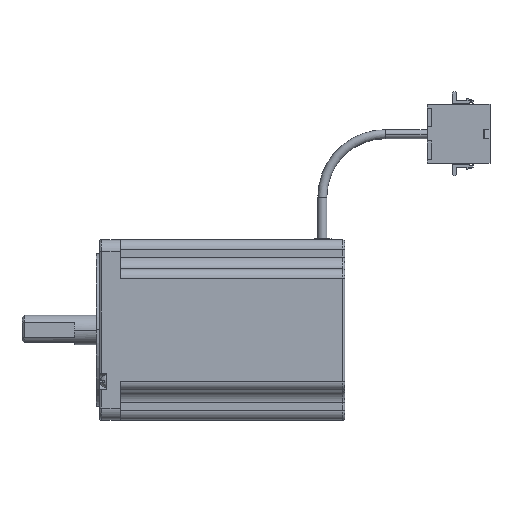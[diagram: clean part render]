
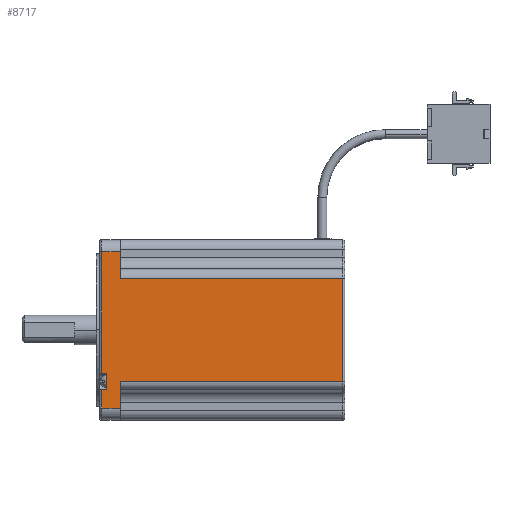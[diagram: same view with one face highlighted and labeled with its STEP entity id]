
A CAD part, top view. The second image highlights one B-rep face of the part: STEP entity #8717.
In plain terms, the highlighted planar face has unit normal (0, 0, 1) as drawn and (-1, 0, 0) by its records, which use the part's own axes.
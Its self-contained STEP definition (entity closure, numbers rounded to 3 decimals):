
#89 = LINE ( 'NONE', #5819, #8015 ) ;
#282 = EDGE_CURVE ( 'NONE', #3821, #5480, #89, .T. ) ;
#329 = CARTESIAN_POINT ( 'NONE',  ( -119.958, 68.06, -116. ) ) ;
#341 = EDGE_CURVE ( 'NONE', #5930, #10087, #3624, .T. ) ;
#569 = ORIENTED_EDGE ( 'NONE', *, *, #1778, .T. ) ;
#1148 = ORIENTED_EDGE ( 'NONE', *, *, #282, .T. ) ;
#1176 = EDGE_CURVE ( 'NONE', #10087, #5801, #5386, .T. ) ;
#1214 = VERTEX_POINT ( 'NONE', #9727 ) ;
#1280 = VECTOR ( 'NONE', #4885, 1000. ) ;
#1308 = EDGE_CURVE ( 'NONE', #5801, #4598, #2290, .T. ) ;
#1394 = DIRECTION ( 'NONE',  ( -1., 0., 0. ) ) ;
#1445 = LINE ( 'NONE', #4152, #3076 ) ;
#1448 = LINE ( 'NONE', #3697, #5412 ) ;
#1657 = DIRECTION ( 'NONE',  ( 0., -1., 0. ) ) ;
#1715 = EDGE_CURVE ( 'NONE', #4598, #6285, #8066, .T. ) ;
#1778 = EDGE_CURVE ( 'NONE', #6285, #1865, #5492, .T. ) ;
#1789 = VECTOR ( 'NONE', #5985, 1000. ) ;
#1865 = VERTEX_POINT ( 'NONE', #3994 ) ;
#1873 = CARTESIAN_POINT ( 'NONE',  ( -119.958, 18.86, -116. ) ) ;
#1911 = EDGE_CURVE ( 'NONE', #1865, #5703, #4533, .T. ) ;
#2181 = DIRECTION ( 'NONE',  ( 0., 0., 1. ) ) ;
#2290 = LINE ( 'NONE', #4645, #4421 ) ;
#2306 = EDGE_CURVE ( 'NONE', #5703, #4131, #1445, .T. ) ;
#2321 = VECTOR ( 'NONE', #9241, 1000. ) ;
#2348 = CARTESIAN_POINT ( 'NONE',  ( -119.958, 6.16, -10. ) ) ;
#2380 = EDGE_CURVE ( 'NONE', #4131, #7276, #4445, .T. ) ;
#2595 = DIRECTION ( 'NONE',  ( 0., 1., 0. ) ) ;
#2658 = EDGE_CURVE ( 'NONE', #7276, #1214, #4315, .T. ) ;
#2870 = EDGE_LOOP ( 'NONE', ( #7535, #1148, #4387, #3046, #4974, #9459, #6623, #569, #5582, #3065, #4726, #6082 ) ) ;
#2994 = CARTESIAN_POINT ( 'NONE',  ( -119.958, 71.76, -1. ) ) ;
#3046 = ORIENTED_EDGE ( 'NONE', *, *, #341, .T. ) ;
#3065 = ORIENTED_EDGE ( 'NONE', *, *, #2306, .T. ) ;
#3076 = VECTOR ( 'NONE', #2595, 1000. ) ;
#3079 = FACE_OUTER_BOUND ( 'NONE', #2870, .T. ) ;
#3203 = DIRECTION ( 'NONE',  ( 0., 0., 1. ) ) ;
#3397 = CARTESIAN_POINT ( 'NONE',  ( -119.958, 71.76, 0. ) ) ;
#3624 = LINE ( 'NONE', #5782, #7531 ) ;
#3697 = CARTESIAN_POINT ( 'NONE',  ( -119.958, 18.86, 0. ) ) ;
#3821 = VERTEX_POINT ( 'NONE', #329 ) ;
#3994 = CARTESIAN_POINT ( 'NONE',  ( -119.958, 71.76, -3.5 ) ) ;
#4009 = VECTOR ( 'NONE', #2181, 1000. ) ;
#4131 = VERTEX_POINT ( 'NONE', #8304 ) ;
#4152 = CARTESIAN_POINT ( 'NONE',  ( -119.958, 0.46, -1. ) ) ;
#4288 = CARTESIAN_POINT ( 'NONE',  ( -119.958, 80.76, -10. ) ) ;
#4315 = LINE ( 'NONE', #4849, #8217 ) ;
#4387 = ORIENTED_EDGE ( 'NONE', *, *, #8644, .T. ) ;
#4421 = VECTOR ( 'NONE', #5537, 1000. ) ;
#4445 = LINE ( 'NONE', #9366, #2321 ) ;
#4533 = LINE ( 'NONE', #3397, #6332 ) ;
#4598 = VERTEX_POINT ( 'NONE', #8842 ) ;
#4645 = CARTESIAN_POINT ( 'NONE',  ( -119.958, 0.46, -1. ) ) ;
#4726 = ORIENTED_EDGE ( 'NONE', *, *, #2380, .T. ) ;
#4749 = DIRECTION ( 'NONE',  ( 0., -1., 0. ) ) ;
#4849 = CARTESIAN_POINT ( 'NONE',  ( -119.958, 0.46, -10. ) ) ;
#4852 = CARTESIAN_POINT ( 'NONE',  ( -119.958, 18.86, -10. ) ) ;
#4885 = DIRECTION ( 'NONE',  ( 0., 1., 0. ) ) ;
#4925 = CARTESIAN_POINT ( 'NONE',  ( -119.958, 0.46, -3.5 ) ) ;
#4974 = ORIENTED_EDGE ( 'NONE', *, *, #1176, .T. ) ;
#5148 = VECTOR ( 'NONE', #8553, 1000. ) ;
#5309 = PLANE ( 'NONE',  #5925 ) ;
#5386 = LINE ( 'NONE', #10030, #5148 ) ;
#5412 = VECTOR ( 'NONE', #9896, 1000. ) ;
#5480 = VERTEX_POINT ( 'NONE', #1873 ) ;
#5492 = LINE ( 'NONE', #4925, #1280 ) ;
#5537 = DIRECTION ( 'NONE',  ( 0., 1., 0. ) ) ;
#5582 = ORIENTED_EDGE ( 'NONE', *, *, #1911, .T. ) ;
#5703 = VERTEX_POINT ( 'NONE', #2994 ) ;
#5782 = CARTESIAN_POINT ( 'NONE',  ( -119.958, 0.46, -10. ) ) ;
#5796 = DIRECTION ( 'NONE',  ( 0., -1., 0. ) ) ;
#5801 = VERTEX_POINT ( 'NONE', #9335 ) ;
#5819 = CARTESIAN_POINT ( 'NONE',  ( -119.958, 0.46, -116. ) ) ;
#5925 = AXIS2_PLACEMENT_3D ( 'NONE', #8440, #1394, #6900 ) ;
#5930 = VERTEX_POINT ( 'NONE', #4852 ) ;
#5985 = DIRECTION ( 'NONE',  ( 0., 0., -1. ) ) ;
#6031 = CARTESIAN_POINT ( 'NONE',  ( -119.958, 64.16, 0. ) ) ;
#6082 = ORIENTED_EDGE ( 'NONE', *, *, #2658, .T. ) ;
#6285 = VERTEX_POINT ( 'NONE', #6819 ) ;
#6332 = VECTOR ( 'NONE', #3203, 1000. ) ;
#6623 = ORIENTED_EDGE ( 'NONE', *, *, #1715, .T. ) ;
#6819 = CARTESIAN_POINT ( 'NONE',  ( -119.958, 64.16, -3.5 ) ) ;
#6889 = CARTESIAN_POINT ( 'NONE',  ( -119.958, 68.06, -10. ) ) ;
#6900 = DIRECTION ( 'NONE',  ( 0., 0., 1. ) ) ;
#7276 = VERTEX_POINT ( 'NONE', #4288 ) ;
#7531 = VECTOR ( 'NONE', #1657, 1000. ) ;
#7535 = ORIENTED_EDGE ( 'NONE', *, *, #9966, .F. ) ;
#8015 = VECTOR ( 'NONE', #5796, 1000. ) ;
#8066 = LINE ( 'NONE', #6031, #1789 ) ;
#8217 = VECTOR ( 'NONE', #4749, 1000. ) ;
#8304 = CARTESIAN_POINT ( 'NONE',  ( -119.958, 80.76, -1. ) ) ;
#8440 = CARTESIAN_POINT ( 'NONE',  ( -119.958, 0.46, 0. ) ) ;
#8553 = DIRECTION ( 'NONE',  ( 0., 0., 1. ) ) ;
#8644 = EDGE_CURVE ( 'NONE', #5480, #5930, #1448, .T. ) ;
#8717 = ADVANCED_FACE ( 'NONE', ( #3079 ), #5309, .T. ) ;
#8842 = CARTESIAN_POINT ( 'NONE',  ( -119.958, 64.16, -1. ) ) ;
#9241 = DIRECTION ( 'NONE',  ( 0., 0., -1. ) ) ;
#9335 = CARTESIAN_POINT ( 'NONE',  ( -119.958, 6.16, -1. ) ) ;
#9366 = CARTESIAN_POINT ( 'NONE',  ( -119.958, 80.76, 0. ) ) ;
#9459 = ORIENTED_EDGE ( 'NONE', *, *, #1308, .T. ) ;
#9727 = CARTESIAN_POINT ( 'NONE',  ( -119.958, 68.06, -10. ) ) ;
#9896 = DIRECTION ( 'NONE',  ( 0., 0., 1. ) ) ;
#9934 = LINE ( 'NONE', #6889, #4009 ) ;
#9966 = EDGE_CURVE ( 'NONE', #3821, #1214, #9934, .T. ) ;
#10030 = CARTESIAN_POINT ( 'NONE',  ( -119.958, 6.16, 0. ) ) ;
#10087 = VERTEX_POINT ( 'NONE', #2348 ) ;
